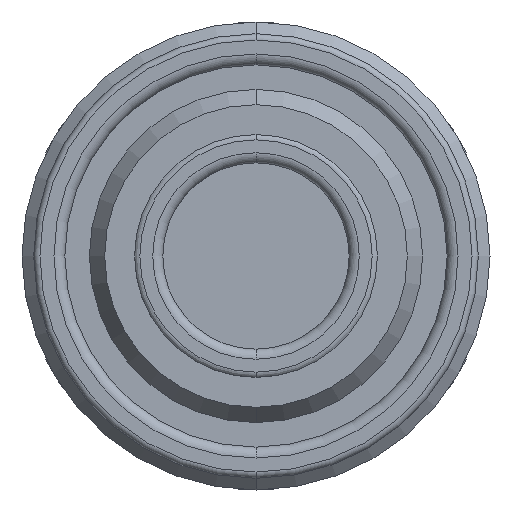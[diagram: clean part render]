
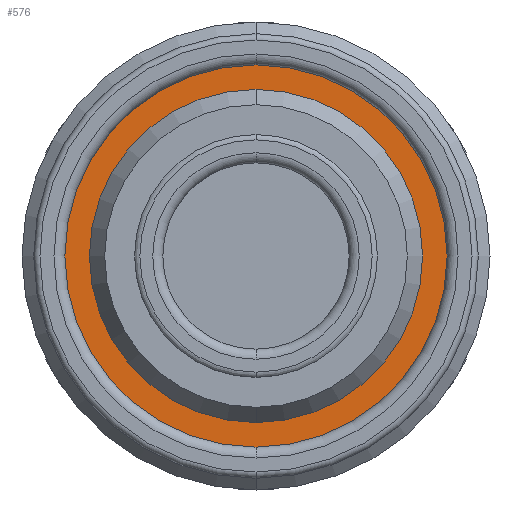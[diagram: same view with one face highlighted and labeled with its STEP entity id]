
A CAD part, front view. The second image highlights one B-rep face of the part: STEP entity #576.
In plain terms, the highlighted planar face has unit normal (0, -1, 0).
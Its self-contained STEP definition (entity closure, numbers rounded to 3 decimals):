
#226=FACE_BOUND('',#933,.T.);
#227=FACE_BOUND('',#934,.T.);
#257=PLANE('',#2674);
#576=ADVANCED_FACE('',(#226,#227),#257,.T.);
#933=EDGE_LOOP('',(#1156,#1157));
#934=EDGE_LOOP('',(#1158,#1159));
#1156=ORIENTED_EDGE('',*,*,#2063,.T.);
#1157=ORIENTED_EDGE('',*,*,#2085,.T.);
#1158=ORIENTED_EDGE('',*,*,#2084,.F.);
#1159=ORIENTED_EDGE('',*,*,#2067,.F.);
#1836=VERTEX_POINT('',#3919);
#1837=VERTEX_POINT('',#3921);
#1840=VERTEX_POINT('',#3928);
#1841=VERTEX_POINT('',#3930);
#2063=EDGE_CURVE('',#1837,#1836,#2425,.T.);
#2067=EDGE_CURVE('',#1840,#1841,#2428,.T.);
#2084=EDGE_CURVE('',#1841,#1840,#2442,.T.);
#2085=EDGE_CURVE('',#1836,#1837,#2443,.T.);
#2425=CIRCLE('',#2643,13.9);
#2428=CIRCLE('',#2647,10.68);
#2442=CIRCLE('',#2671,10.68);
#2443=CIRCLE('',#2673,13.9);
#2643=AXIS2_PLACEMENT_3D('',#3920,#3051,#3052);
#2647=AXIS2_PLACEMENT_3D('',#3929,#3060,#3061);
#2671=AXIS2_PLACEMENT_3D('',#3965,#3111,#3112);
#2673=AXIS2_PLACEMENT_3D('',#3967,#3115,#3116);
#2674=AXIS2_PLACEMENT_3D('',#3968,#3117,#3118);
#3051=DIRECTION('',(0.,-1.,0.));
#3052=DIRECTION('',(0.,0.,-1.));
#3060=DIRECTION('',(0.,-1.,0.));
#3061=DIRECTION('',(0.,0.,-1.));
#3111=DIRECTION('',(0.,-1.,0.));
#3112=DIRECTION('',(0.,0.,-1.));
#3115=DIRECTION('',(0.,-1.,0.));
#3116=DIRECTION('',(0.,0.,-1.));
#3117=DIRECTION('',(0.,-1.,0.));
#3118=DIRECTION('',(0.,0.,1.));
#3919=CARTESIAN_POINT('',(0.,0.1,13.9));
#3920=CARTESIAN_POINT('',(0.,0.1,0.));
#3921=CARTESIAN_POINT('',(0.,0.1,-13.9));
#3928=CARTESIAN_POINT('',(0.,0.1,-10.68));
#3929=CARTESIAN_POINT('',(0.,0.1,0.));
#3930=CARTESIAN_POINT('',(0.,0.1,10.68));
#3965=CARTESIAN_POINT('',(0.,0.1,0.));
#3967=CARTESIAN_POINT('',(0.,0.1,0.));
#3968=CARTESIAN_POINT('',(0.,0.1,0.));
